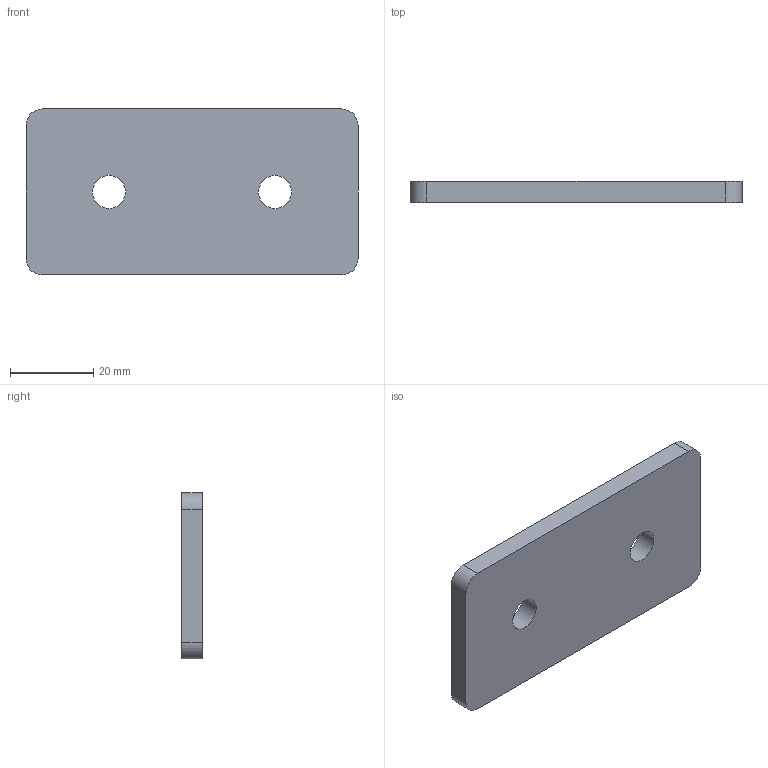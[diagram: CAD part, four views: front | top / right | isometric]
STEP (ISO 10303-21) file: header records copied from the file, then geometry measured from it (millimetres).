
FILE_DESCRIPTION( ( 'STEP AP203' ), '1' );
FILE_NAME( 'C:/Temp/Ganter_Step_05_03_2020/data/3_7/gn_967/gn_967_2/gn_967_2_f/Shackle GN 967-40-80-F-2-SR.stp', '2020-03-12T14:48:24', ( 'License CC BY-ND 4.0' ), ( 'CADENAS' ), ' ', 'PARTsolutions', ' ' );
FILE_SCHEMA( ( 'CONFIG_CONTROL_DESIGN' ) );
Length unit declared in the file: millimetre
Products named in the file (1): _Shackle GN 967-40-80-F-2-SR
Bounding box: 80 x 5 x 40 mm (x, y, z)
Volume: 15428.7 mm3; surface area: 7588.5 mm2
Topology: 1 solids, 1 shells, 12 faces, 30 edges, 20 vertices
Faces by surface type: plane 6, cylinder 6
Full cylindrical faces by diameter (mm): 8 x2
Entity records: 408 total; most frequent: DIRECTION 66, CARTESIAN_POINT 61, ORIENTED_EDGE 56, EDGE_CURVE 28, AXIS2_PLACEMENT_3D 25, VERTEX_POINT 20, EDGE_LOOP 18, LINE 16
